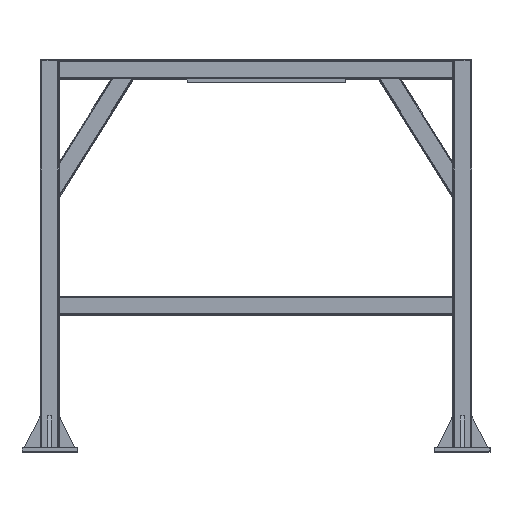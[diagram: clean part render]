
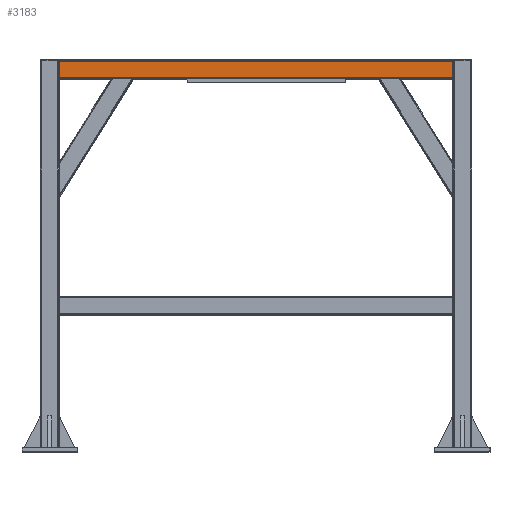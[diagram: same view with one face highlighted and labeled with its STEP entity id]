
A CAD part, top view. The second image highlights one B-rep face of the part: STEP entity #3183.
In plain terms, the highlighted planar face has unit normal (0, 0, 1).
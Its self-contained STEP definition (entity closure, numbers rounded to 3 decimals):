
#47 = EDGE_LOOP ( 'NONE', ( #16084, #19739, #18200, #14194 ) ) ;
#465 = VERTEX_POINT ( 'NONE', #11201 ) ;
#851 = CARTESIAN_POINT ( 'NONE',  ( -1250., 2400., 1370. ) ) ;
#890 = VECTOR ( 'NONE', #11365, 1000. ) ;
#1110 = VECTOR ( 'NONE', #6188, 1000. ) ;
#2314 = CARTESIAN_POINT ( 'NONE',  ( 1250., 2452., 1370. ) ) ;
#2482 = DIRECTION ( 'NONE',  ( 0., 0., -1. ) ) ;
#3183 = ADVANCED_FACE ( 'NONE', ( #10917 ), #19264, .F. ) ;
#3615 = EDGE_CURVE ( 'NONE', #465, #16172, #12106, .T. ) ;
#4356 = VERTEX_POINT ( 'NONE', #16663 ) ;
#4378 = EDGE_CURVE ( 'NONE', #11235, #465, #12574, .T. ) ;
#4805 = CARTESIAN_POINT ( 'NONE',  ( -1250., 2348., 1370. ) ) ;
#5277 = CARTESIAN_POINT ( 'NONE',  ( 1310., 2348., 1370. ) ) ;
#5428 = LINE ( 'NONE', #5277, #890 ) ;
#6159 = VECTOR ( 'NONE', #10049, 1000. ) ;
#6188 = DIRECTION ( 'NONE',  ( -1., 0., 0. ) ) ;
#7547 = EDGE_CURVE ( 'NONE', #4356, #16172, #5428, .T. ) ;
#7880 = LINE ( 'NONE', #12909, #16406 ) ;
#10049 = DIRECTION ( 'NONE',  ( 0., -1., 0. ) ) ;
#10197 = DIRECTION ( 'NONE',  ( -1., 0., 0. ) ) ;
#10917 = FACE_OUTER_BOUND ( 'NONE', #47, .T. ) ;
#11201 = CARTESIAN_POINT ( 'NONE',  ( -1250., 2452., 1370. ) ) ;
#11235 = VERTEX_POINT ( 'NONE', #2314 ) ;
#11365 = DIRECTION ( 'NONE',  ( -1., 0., 0. ) ) ;
#11836 = DIRECTION ( 'NONE',  ( 0., -1., 0. ) ) ;
#12106 = LINE ( 'NONE', #851, #6159 ) ;
#12164 = CARTESIAN_POINT ( 'NONE',  ( 1310., 2452., 1370. ) ) ;
#12574 = LINE ( 'NONE', #12164, #1110 ) ;
#12909 = CARTESIAN_POINT ( 'NONE',  ( 1250., 2400., 1370. ) ) ;
#13526 = EDGE_CURVE ( 'NONE', #11235, #4356, #7880, .T. ) ;
#14194 = ORIENTED_EDGE ( 'NONE', *, *, #7547, .F. ) ;
#16084 = ORIENTED_EDGE ( 'NONE', *, *, #13526, .F. ) ;
#16172 = VERTEX_POINT ( 'NONE', #4805 ) ;
#16406 = VECTOR ( 'NONE', #11836, 1000. ) ;
#16663 = CARTESIAN_POINT ( 'NONE',  ( 1250., 2348., 1370. ) ) ;
#17621 = CARTESIAN_POINT ( 'NONE',  ( 1310., 2348., 1370. ) ) ;
#18200 = ORIENTED_EDGE ( 'NONE', *, *, #3615, .T. ) ;
#18204 = AXIS2_PLACEMENT_3D ( 'NONE', #17621, #2482, #10197 ) ;
#19264 = PLANE ( 'NONE',  #18204 ) ;
#19739 = ORIENTED_EDGE ( 'NONE', *, *, #4378, .T. ) ;
